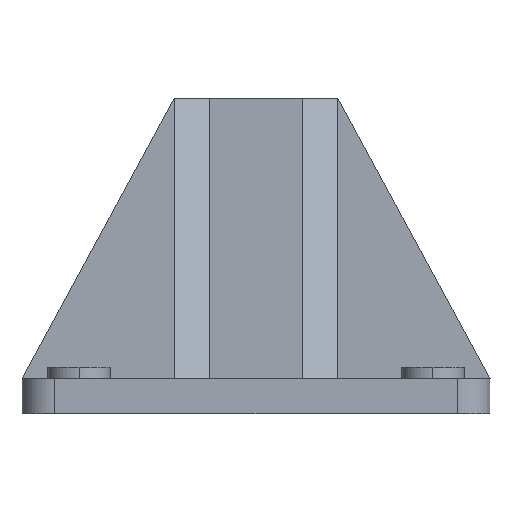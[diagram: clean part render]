
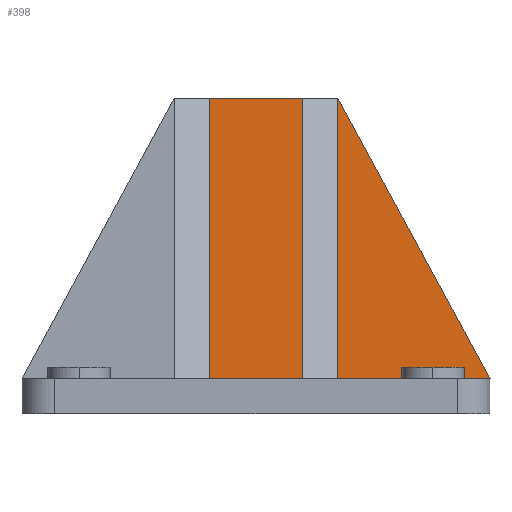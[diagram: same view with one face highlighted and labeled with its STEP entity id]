
A CAD part, left-side view. The second image highlights one B-rep face of the part: STEP entity #398.
In plain terms, the highlighted planar face has unit normal (-1, 0, 0).
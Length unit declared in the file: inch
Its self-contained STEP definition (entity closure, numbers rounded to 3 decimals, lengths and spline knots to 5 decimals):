
#398=ADVANCED_FACE('',(#804),#805,.T.);
#804=FACE_OUTER_BOUND('',#1651,.T.);
#805=PLANE('',#1652);
#1651=EDGE_LOOP('',(#2536,#2537,#2538,#2539,#2540,#2541,#2542,#2543));
#1652=AXIS2_PLACEMENT_3D('',#2544,#2545,#2546);
#2536=ORIENTED_EDGE('',*,*,#2700,.T.);
#2537=ORIENTED_EDGE('',*,*,#3004,.T.);
#2538=ORIENTED_EDGE('',*,*,#3040,.T.);
#2539=ORIENTED_EDGE('',*,*,#2727,.T.);
#2540=ORIENTED_EDGE('',*,*,#3014,.F.);
#2541=ORIENTED_EDGE('',*,*,#2923,.F.);
#2542=ORIENTED_EDGE('',*,*,#2950,.F.);
#2543=ORIENTED_EDGE('',*,*,#2894,.F.);
#2544=CARTESIAN_POINT('',(2.14124,0.875,0.0));
#2545=DIRECTION('',(-1.0,0.0,0.0));
#2546=DIRECTION('',(0.0,-1.0,0.0));
#2700=EDGE_CURVE('',#3194,#3192,#3195,.T.);
#2727=EDGE_CURVE('',#3240,#3242,#3244,.T.);
#2894=EDGE_CURVE('',#3194,#3491,#3492,.T.);
#2923=EDGE_CURVE('',#3535,#3537,#3538,.T.);
#2950=EDGE_CURVE('',#3491,#3535,#3573,.T.);
#3004=EDGE_CURVE('',#3192,#3073,#3637,.T.);
#3014=EDGE_CURVE('',#3537,#3242,#3647,.T.);
#3040=EDGE_CURVE('',#3073,#3240,#3675,.T.);
#3073=VERTEX_POINT('',#3724);
#3192=VERTEX_POINT('',#3957);
#3194=VERTEX_POINT('',#3960);
#3195=LINE('',#3961,#3962);
#3240=VERTEX_POINT('',#4061);
#3242=VERTEX_POINT('',#4064);
#3244=LINE('',#4067,#4068);
#3491=VERTEX_POINT('',#4523);
#3492=LINE('',#4524,#4525);
#3535=VERTEX_POINT('',#4621);
#3537=VERTEX_POINT('',#4624);
#3538=LINE('',#4625,#4626);
#3573=LINE('',#4693,#4694);
#3637=LINE('',#4807,#4808);
#3647=LINE('',#4825,#4826);
#3675=LINE('',#4883,#4884);
#3724=CARTESIAN_POINT('',(2.14124,1.375,3.0));
#3957=CARTESIAN_POINT('',(2.14124,0.,3.0));
#3960=CARTESIAN_POINT('',(2.14124,0.,2.99998));
#3961=CARTESIAN_POINT('',(2.14124,0.,0.0));
#3962=VECTOR('',#4935,1.0);
#4061=CARTESIAN_POINT('',(2.14124,1.375,0.00001));
#4064=CARTESIAN_POINT('',(2.14124,1.75,0.00001));
#4067=CARTESIAN_POINT('',(2.14124,1.3125,0.00001));
#4068=VECTOR('',#4944,1.);
#4523=CARTESIAN_POINT('',(2.14124,-1.62502,0.00001));
#4524=CARTESIAN_POINT('',(2.14124,0.00001,2.99999));
#4525=VECTOR('',#5024,1.0);
#4621=CARTESIAN_POINT('',(2.14124,0.,0.0));
#4624=CARTESIAN_POINT('',(2.14124,1.75,0.0));
#4625=CARTESIAN_POINT('',(2.14124,0.,0.0));
#4626=VECTOR('',#5034,1.);
#4693=CARTESIAN_POINT('',(2.14124,-1.62502,0.00001));
#4694=VECTOR('',#5046,1.);
#4807=CARTESIAN_POINT('',(2.14124,0.,3.0));
#4808=VECTOR('',#5066,1.);
#4825=CARTESIAN_POINT('',(2.14124,1.75,0.0));
#4826=VECTOR('',#5068,1.0);
#4883=CARTESIAN_POINT('',(2.14124,1.375,0.57923));
#4884=VECTOR('',#5074,1.0);
#4935=DIRECTION('',(0.0,0.0,1.0));
#4944=DIRECTION('',(0.0,1.0,0.0));
#5024=DIRECTION('',(0.,-0.476,-0.879));
#5034=DIRECTION('',(0.0,1.0,0.0));
#5046=DIRECTION('',(0.,1.,0.));
#5066=DIRECTION('',(0.0,1.0,0.0));
#5068=DIRECTION('',(0.0,0.0,1.0));
#5074=DIRECTION('',(-0.0,0.,-1.0));
